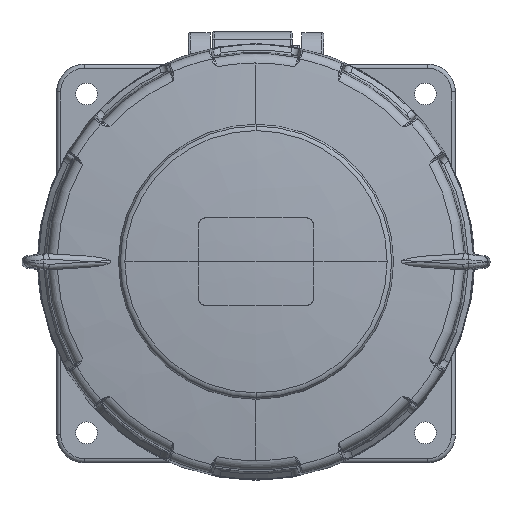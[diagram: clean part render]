
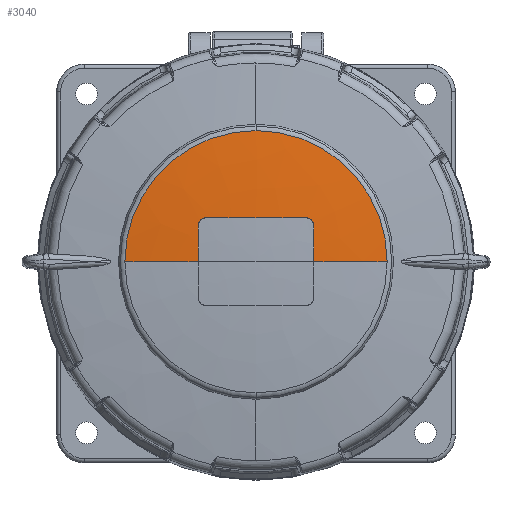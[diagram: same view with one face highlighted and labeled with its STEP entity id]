
A CAD part, top view. The second image highlights one B-rep face of the part: STEP entity #3040.
In plain terms, the highlighted free-form (B-spline) face has degree [3, 3] with [4, 7] control points.
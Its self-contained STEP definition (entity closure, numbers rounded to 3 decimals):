
#2843 = EDGE_CURVE('',#2844,#2846,#2848,.T.);
#2844 = VERTEX_POINT('',#2845);
#2845 = CARTESIAN_POINT('',(-32.898,0.232,87.022
    ));
#2846 = VERTEX_POINT('',#2847);
#2847 = CARTESIAN_POINT('',(0.,33.13,
    87.022));
#2848 = CIRCLE('',#2849,32.897);
#2849 = AXIS2_PLACEMENT_3D('',#2850,#2851,#2852);
#2850 = CARTESIAN_POINT('',(0.,0.232,
    87.022));
#2851 = DIRECTION('',(0.,0.,-1.));
#2852 = DIRECTION('',(-1.,0.,
    0.));
#2886 = EDGE_CURVE('',#2887,#2889,#2891,.T.);
#2887 = VERTEX_POINT('',#2888);
#2888 = CARTESIAN_POINT('',(14.5,0.232,88.495)
  );
#2889 = VERTEX_POINT('',#2890);
#2890 = CARTESIAN_POINT('',(32.898,0.232,87.022
    ));
#2891 = CIRCLE('',#2892,305.024);
#2892 = AXIS2_PLACEMENT_3D('',#2893,#2894,#2895);
#2893 = CARTESIAN_POINT('',(-0.634,0.232,
    -216.153));
#2894 = DIRECTION('',(0.,1.,
    0.));
#2895 = DIRECTION('',(0.11,0.,0.994)
  );
#2970 = VERTEX_POINT('',#2971);
#2971 = CARTESIAN_POINT('',(-14.5,0.232,88.495));
#2978 = EDGE_CURVE('',#2970,#2844,#2979,.T.);
#2979 = CIRCLE('',#2980,305.024);
#2980 = AXIS2_PLACEMENT_3D('',#2981,#2982,#2983);
#2981 = CARTESIAN_POINT('',(0.634,0.232,
    -216.153));
#2982 = DIRECTION('',(0.,-1.,
    0.));
#2983 = DIRECTION('',(-0.11,0.,0.994
    ));
#3029 = EDGE_CURVE('',#2846,#2889,#3030,.T.);
#3030 = CIRCLE('',#3031,32.897);
#3031 = AXIS2_PLACEMENT_3D('',#3032,#3033,#3034);
#3032 = CARTESIAN_POINT('',(0.,0.232,
    87.022));
#3033 = DIRECTION('',(0.,0.,-1.));
#3034 = DIRECTION('',(0.,1.,0.));
#3040 = ADVANCED_FACE('',(#3041),#3126,.T.);
#3041 = FACE_BOUND('',#3042,.T.);
#3042 = EDGE_LOOP('',(#3043,#3044,#3053,#3074,#3086,#3095,#3116,#3123,
    #3124,#3125));
#3043 = ORIENTED_EDGE('',*,*,#2978,.F.);
#3044 = ORIENTED_EDGE('',*,*,#3045,.F.);
#3045 = EDGE_CURVE('',#3046,#2970,#3048,.T.);
#3046 = VERTEX_POINT('',#3047);
#3047 = CARTESIAN_POINT('',(-14.5,9.233,88.357
    ));
#3048 = B_SPLINE_CURVE_WITH_KNOTS('',3,(#3049,#3050,#3051,#3052),
  .UNSPECIFIED.,.F.,.F.,(4,4),(0.,1.),.PIECEWISE_BEZIER_KNOTS.);
#3049 = CARTESIAN_POINT('',(-14.5,9.233,88.357));
#3050 = CARTESIAN_POINT('',(-14.5,6.234,88.449));
#3051 = CARTESIAN_POINT('',(-14.5,3.233,88.495));
#3052 = CARTESIAN_POINT('',(-14.5,0.232,88.495));
#3053 = ORIENTED_EDGE('',*,*,#3054,.T.);
#3054 = EDGE_CURVE('',#3046,#3055,#3057,.T.);
#3055 = VERTEX_POINT('',#3056);
#3056 = CARTESIAN_POINT('',(-12.5,11.232,
    88.381));
#3057 = B_SPLINE_CURVE_WITH_KNOTS('',3,(#3058,#3059,#3060,#3061,#3062,
    #3063,#3064,#3065,#3066,#3067,#3068,#3069,#3070,#3071,#3072,#3073),
  .UNSPECIFIED.,.F.,.F.,(4,3,3,3,3,4),(0.,0.215,0.429,
    0.644,0.859,1.),.UNSPECIFIED.);
#3058 = CARTESIAN_POINT('',(-14.5,9.233,
    88.357));
#3059 = CARTESIAN_POINT('',(-14.5,9.456,
    88.35));
#3060 = CARTESIAN_POINT('',(-14.461,9.683,
    88.345));
#3061 = CARTESIAN_POINT('',(-14.387,9.894,
    88.342));
#3062 = CARTESIAN_POINT('',(-14.313,10.105,
    88.338));
#3063 = CARTESIAN_POINT('',(-14.202,10.306,
    88.337));
#3064 = CARTESIAN_POINT('',(-14.062,10.481,
    88.337));
#3065 = CARTESIAN_POINT('',(-13.923,10.656,
    88.338));
#3066 = CARTESIAN_POINT('',(-13.751,10.809,
    88.341));
#3067 = CARTESIAN_POINT('',(-13.562,10.927,
    88.345));
#3068 = CARTESIAN_POINT('',(-13.372,11.046,
    88.35));
#3069 = CARTESIAN_POINT('',(-13.16,11.134,
    88.356));
#3070 = CARTESIAN_POINT('',(-12.942,11.183,
    88.364));
#3071 = CARTESIAN_POINT('',(-12.797,11.216,
    88.369));
#3072 = CARTESIAN_POINT('',(-12.648,11.232,
    88.375));
#3073 = CARTESIAN_POINT('',(-12.5,11.232,
    88.381));
#3074 = ORIENTED_EDGE('',*,*,#3075,.F.);
#3075 = EDGE_CURVE('',#3076,#3055,#3078,.T.);
#3076 = VERTEX_POINT('',#3077);
#3077 = CARTESIAN_POINT('',(0.,11.232,
    88.649));
#3078 = B_SPLINE_CURVE_WITH_KNOTS('',3,(#3079,#3080,#3081,#3082,#3083,
    #3084,#3085),.UNSPECIFIED.,.F.,.F.,(4,3,4),(0.,0.88,1.),
  .UNSPECIFIED.);
#3079 = CARTESIAN_POINT('',(0.,11.232,
    88.649));
#3080 = CARTESIAN_POINT('',(-3.669,11.232,
    88.649));
#3081 = CARTESIAN_POINT('',(-7.338,11.232,
    88.579));
#3082 = CARTESIAN_POINT('',(-11.004,11.232,
    88.441));
#3083 = CARTESIAN_POINT('',(-11.503,11.232,
    88.422));
#3084 = CARTESIAN_POINT('',(-12.001,11.232,
    88.402));
#3085 = CARTESIAN_POINT('',(-12.5,11.232,
    88.381));
#3086 = ORIENTED_EDGE('',*,*,#3087,.F.);
#3087 = EDGE_CURVE('',#3088,#3076,#3090,.T.);
#3088 = VERTEX_POINT('',#3089);
#3089 = CARTESIAN_POINT('',(12.5,11.232,88.381)
  );
#3090 = B_SPLINE_CURVE_WITH_KNOTS('',3,(#3091,#3092,#3093,#3094),
  .UNSPECIFIED.,.F.,.F.,(4,4),(0.,1.),.PIECEWISE_BEZIER_KNOTS.);
#3091 = CARTESIAN_POINT('',(12.5,11.232,
    88.381));
#3092 = CARTESIAN_POINT('',(8.335,11.232,
    88.558));
#3093 = CARTESIAN_POINT('',(4.168,11.232,
    88.649));
#3094 = CARTESIAN_POINT('',(0.,11.232,
    88.649));
#3095 = ORIENTED_EDGE('',*,*,#3096,.T.);
#3096 = EDGE_CURVE('',#3088,#3097,#3099,.T.);
#3097 = VERTEX_POINT('',#3098);
#3098 = CARTESIAN_POINT('',(14.5,9.233,
    88.357));
#3099 = B_SPLINE_CURVE_WITH_KNOTS('',3,(#3100,#3101,#3102,#3103,#3104,
    #3105,#3106,#3107,#3108,#3109,#3110,#3111,#3112,#3113,#3114,#3115),
  .UNSPECIFIED.,.F.,.F.,(4,3,3,3,3,4),(0.,0.215,0.43,
    0.645,0.859,1.),.UNSPECIFIED.);
#3100 = CARTESIAN_POINT('',(12.5,11.232,
    88.381));
#3101 = CARTESIAN_POINT('',(12.723,11.232,
    88.371));
#3102 = CARTESIAN_POINT('',(12.95,11.194,
    88.363));
#3103 = CARTESIAN_POINT('',(13.161,11.12,
    88.356));
#3104 = CARTESIAN_POINT('',(13.373,11.046,
    88.35));
#3105 = CARTESIAN_POINT('',(13.574,10.934,
    88.344));
#3106 = CARTESIAN_POINT('',(13.749,10.795,
    88.341));
#3107 = CARTESIAN_POINT('',(13.924,10.655,
    88.338));
#3108 = CARTESIAN_POINT('',(14.077,10.483,
    88.337));
#3109 = CARTESIAN_POINT('',(14.195,10.293,88.338
    ));
#3110 = CARTESIAN_POINT('',(14.314,10.104,
    88.338));
#3111 = CARTESIAN_POINT('',(14.402,9.891,
    88.341));
#3112 = CARTESIAN_POINT('',(14.451,9.673,
    88.346));
#3113 = CARTESIAN_POINT('',(14.483,9.529,88.349
    ));
#3114 = CARTESIAN_POINT('',(14.5,9.38,
    88.353));
#3115 = CARTESIAN_POINT('',(14.5,9.233,
    88.357));
#3116 = ORIENTED_EDGE('',*,*,#3117,.F.);
#3117 = EDGE_CURVE('',#2887,#3097,#3118,.T.);
#3118 = B_SPLINE_CURVE_WITH_KNOTS('',3,(#3119,#3120,#3121,#3122),
  .UNSPECIFIED.,.F.,.F.,(4,4),(0.,1.),.PIECEWISE_BEZIER_KNOTS.);
#3119 = CARTESIAN_POINT('',(14.5,0.232,88.495));
#3120 = CARTESIAN_POINT('',(14.5,3.233,88.495));
#3121 = CARTESIAN_POINT('',(14.5,6.234,
    88.449));
#3122 = CARTESIAN_POINT('',(14.5,9.233,
    88.357));
#3123 = ORIENTED_EDGE('',*,*,#2886,.T.);
#3124 = ORIENTED_EDGE('',*,*,#3029,.F.);
#3125 = ORIENTED_EDGE('',*,*,#2843,.F.);
#3126 = ( BOUNDED_SURFACE() B_SPLINE_SURFACE(3,3,(
    (#3127,#3128,#3129,#3130,#3131,#3132,#3133)
    ,(#3134,#3135,#3136,#3137,#3138,#3139,#3140)
    ,(#3141,#3142,#3143,#3144,#3145,#3146,#3147)
    ,(#3148,#3149,#3150,#3151,#3152,#3153,#3154
)),.UNSPECIFIED.,.F.,.F.,.F.) B_SPLINE_SURFACE_WITH_KNOTS((4,4),(4,3,4),
  (0.,1.),(0.,0.5,1.),.PIECEWISE_BEZIER_KNOTS.) 
GEOMETRIC_REPRESENTATION_ITEM() RATIONAL_B_SPLINE_SURFACE((
    (1.,0.803,0.803,1.,0.803,0.803
      ,1.)
    ,(1.,0.802,0.802,1.
      ,0.802,0.802,1.)
    ,(1.,0.802,0.802,1.
      ,0.802,0.802,1.)
    ,(1.,0.803,0.803,1.,0.803,0.803
,1.))) REPRESENTATION_ITEM('') SURFACE() );
#3127 = CARTESIAN_POINT('',(-33.029,0.232,
    87.008));
#3128 = CARTESIAN_POINT('',(-33.029,19.725,
    87.008));
#3129 = CARTESIAN_POINT('',(-19.181,33.443,
    87.008));
#3130 = CARTESIAN_POINT('',(0.311,33.26,
    87.008));
#3131 = CARTESIAN_POINT('',(19.803,33.076,
    87.008));
#3132 = CARTESIAN_POINT('',(33.39,19.099,
    87.008));
#3133 = CARTESIAN_POINT('',(33.023,-0.39,
    87.008));
#3134 = CARTESIAN_POINT('',(-25.663,0.232,
    87.826));
#3135 = CARTESIAN_POINT('',(-25.664,15.378,
    87.826));
#3136 = CARTESIAN_POINT('',(-14.903,26.038,
    87.826));
#3137 = CARTESIAN_POINT('',(0.242,25.895,
    87.826));
#3138 = CARTESIAN_POINT('',(15.387,25.752,
    87.826));
#3139 = CARTESIAN_POINT('',(25.945,14.892,
    87.826));
#3140 = CARTESIAN_POINT('',(25.659,-0.252,
    87.826));
#3141 = CARTESIAN_POINT('',(-18.273,0.232,
    88.375));
#3142 = CARTESIAN_POINT('',(-18.274,11.017,
    88.375));
#3143 = CARTESIAN_POINT('',(-10.612,18.607,
    88.375));
#3144 = CARTESIAN_POINT('',(0.172,18.505,
    88.375));
#3145 = CARTESIAN_POINT('',(10.956,18.403,
    88.375));
#3146 = CARTESIAN_POINT('',(18.474,10.67,
    88.375));
#3147 = CARTESIAN_POINT('',(18.27,-0.112,
    88.375));
#3148 = CARTESIAN_POINT('',(-10.868,0.232,
    88.654));
#3149 = CARTESIAN_POINT('',(-10.868,6.647,
    88.654));
#3150 = CARTESIAN_POINT('',(-6.312,11.161,
    88.654));
#3151 = CARTESIAN_POINT('',(0.102,11.1,
    88.654));
#3152 = CARTESIAN_POINT('',(6.516,11.04,
    88.654));
#3153 = CARTESIAN_POINT('',(10.987,6.441,
    88.654));
#3154 = CARTESIAN_POINT('',(10.866,0.027,
    88.654));
